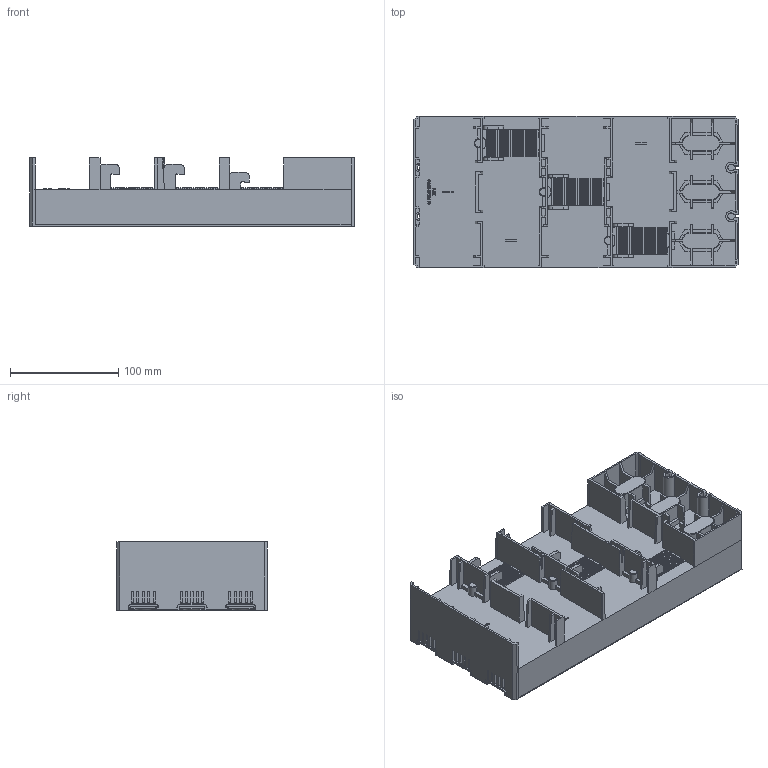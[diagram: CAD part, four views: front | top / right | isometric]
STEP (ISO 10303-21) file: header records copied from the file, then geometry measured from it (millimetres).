
FILE_DESCRIPTION (( 'STEP AP214' ), '1' );
FILE_NAME ('55228.STEP', '2023-08-03T06:13:21', ( 'Windows User' ), ( 'P R C' ), 'SwSTEP 2.0', 'SolidWorks 2019', '' );
FILE_SCHEMA (( 'AUTOMOTIVE_DESIGN' ));
Products named in the file (1): 55228
Bounding box: 300 x 140 x 63 mm (x, y, z)
Volume: 1488535.5 mm3; surface area: 231110.2 mm2
Topology: 1 solids, 7 shells, 2730 faces, 7623 edges, 4914 vertices
Faces by surface type: plane 2266, cylinder 367, bspline 55, cone 42
Entity records: 87491 total; most frequent: CARTESIAN_POINT 18047, ORIENTED_EDGE 15190, DIRECTION 13215, EDGE_CURVE 7595, LINE 6805, VECTOR 6805, VERTEX_POINT 4914, AXIS2_PLACEMENT_3D 3205
